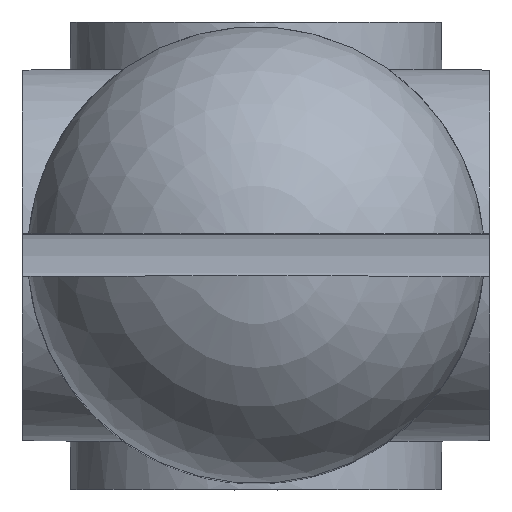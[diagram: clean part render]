
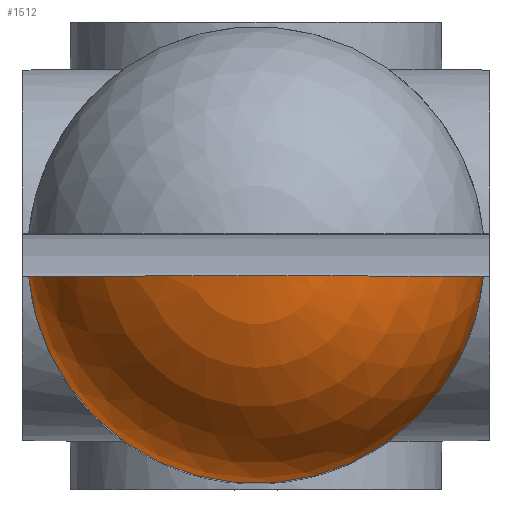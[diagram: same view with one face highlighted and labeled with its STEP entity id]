
A CAD part, top view. The second image highlights one B-rep face of the part: STEP entity #1512.
In plain terms, the highlighted spherical face has radius 10.75 mm.
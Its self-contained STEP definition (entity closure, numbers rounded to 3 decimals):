
#136=CARTESIAN_POINT('',(0.,0.,16.75));
#137=DIRECTION('',(0.,0.,-1.));
#138=DIRECTION('',(0.996,-0.093,0.));
#139=AXIS2_PLACEMENT_3D('',#136,#137,#138);
#567=CARTESIAN_POINT('',(10.703,-1.,16.75));
#568=CARTESIAN_POINT('',(10.703,-1.,17.289));
#569=CARTESIAN_POINT('',(10.622,-1.,18.299));
#570=CARTESIAN_POINT('',(10.342,-1.,19.6));
#571=CARTESIAN_POINT('',(9.963,-1.,20.713));
#572=CARTESIAN_POINT('',(9.526,-1.,21.664));
#573=CARTESIAN_POINT('',(9.059,-1.,22.473));
#574=CARTESIAN_POINT('',(8.582,-1.,23.163));
#575=CARTESIAN_POINT('',(8.106,-1.,23.752));
#576=CARTESIAN_POINT('',(7.639,-1.,24.256));
#577=CARTESIAN_POINT('',(7.197,-1.,24.68));
#578=CARTESIAN_POINT('',(6.784,-1.,25.034));
#579=CARTESIAN_POINT('',(6.391,-1.,25.341));
#580=CARTESIAN_POINT('',(6.005,-1.,25.615));
#581=CARTESIAN_POINT('',(5.608,-1.,25.871));
#582=CARTESIAN_POINT('',(5.196,-1.,26.111));
#583=CARTESIAN_POINT('',(4.775,-1.,26.333));
#584=CARTESIAN_POINT('',(4.345,-1.,26.536));
#585=CARTESIAN_POINT('',(3.909,-1.,26.718));
#586=CARTESIAN_POINT('',(3.462,-1.,26.882));
#587=CARTESIAN_POINT('',(2.998,-1.,27.029));
#588=CARTESIAN_POINT('',(2.559,-1.,27.146));
#589=CARTESIAN_POINT('',(2.181,-1.,27.231));
#590=CARTESIAN_POINT('',(1.851,-1.,27.294));
#591=CARTESIAN_POINT('',(1.564,-1.,27.34));
#592=CARTESIAN_POINT('',(1.306,-1.,27.374));
#593=CARTESIAN_POINT('',(1.065,-1.,27.401));
#594=CARTESIAN_POINT('',(0.827,-1.,27.422));
#595=CARTESIAN_POINT('',(0.582,-1.,27.439));
#596=CARTESIAN_POINT('',(0.337,-1.,27.449));
#597=CARTESIAN_POINT('',(0.092,-1.,27.454));
#598=CARTESIAN_POINT('',(-0.151,-1.,27.453));
#599=CARTESIAN_POINT('',(-0.395,-1.,27.447));
#600=CARTESIAN_POINT('',(-0.641,-1.,27.435));
#601=CARTESIAN_POINT('',(-0.885,-1.,27.418));
#602=CARTESIAN_POINT('',(-1.12,-1.,27.395));
#603=CARTESIAN_POINT('',(-1.361,-1.,27.367));
#604=CARTESIAN_POINT('',(-1.62,-1.,27.331));
#605=CARTESIAN_POINT('',(-1.908,-1.,27.284));
#606=CARTESIAN_POINT('',(-2.235,-1.,27.219));
#607=CARTESIAN_POINT('',(-2.608,-1.,27.133));
#608=CARTESIAN_POINT('',(-3.035,-1.,27.018));
#609=CARTESIAN_POINT('',(-3.481,-1.,26.875));
#610=CARTESIAN_POINT('',(-3.915,-1.,26.715));
#611=CARTESIAN_POINT('',(-4.343,-1.,26.536));
#612=CARTESIAN_POINT('',(-4.774,-1.,26.334));
#613=CARTESIAN_POINT('',(-5.197,-1.,26.111));
#614=CARTESIAN_POINT('',(-5.608,-1.,25.87));
#615=CARTESIAN_POINT('',(-6.004,-1.,25.615));
#616=CARTESIAN_POINT('',(-6.39,-1.,25.341));
#617=CARTESIAN_POINT('',(-6.784,-1.,25.034));
#618=CARTESIAN_POINT('',(-7.197,-1.,24.679));
#619=CARTESIAN_POINT('',(-7.64,-1.,24.256));
#620=CARTESIAN_POINT('',(-8.106,-1.,23.752));
#621=CARTESIAN_POINT('',(-8.582,-1.,23.163));
#622=CARTESIAN_POINT('',(-9.059,-1.,22.473));
#623=CARTESIAN_POINT('',(-9.526,-1.,21.664));
#624=CARTESIAN_POINT('',(-9.963,-1.,20.713));
#625=CARTESIAN_POINT('',(-10.342,-1.,19.6));
#626=CARTESIAN_POINT('',(-10.622,-1.,18.299));
#627=CARTESIAN_POINT('',(-10.703,-1.,17.289));
#628=CARTESIAN_POINT('',(-10.703,-1.,16.75));
#1001=VERTEX_POINT('',#567);
#1002=VERTEX_POINT('',#628);
#1503=CARTESIAN_POINT('',(0.,0.,16.75));
#1504=DIRECTION('',(0.,0.,1.));
#1505=DIRECTION('',(-1.,0.,0.));
#1506=AXIS2_PLACEMENT_3D('',#1503,#1504,#1505);
#1507=SPHERICAL_SURFACE('',#1506,10.75);
#1508=ORIENTED_EDGE('',*,*,#1488,.F.);
#1509=ORIENTED_EDGE('',*,*,#1151,.T.);
#1510=EDGE_LOOP('',(#1508,#1509));
#1511=FACE_OUTER_BOUND('',#1510,.F.);
#1512=ADVANCED_FACE('',(#1511),#1507,.T.);
#140=CIRCLE('',#139,10.75);
#629=B_SPLINE_CURVE_WITH_KNOTS('',3,(#567,#568,#569,#570,#571,#572,#573,#574,
#575,#576,#577,#578,#579,#580,#581,#582,#583,#584,#585,#586,#587,#588,#589,#590,
#591,#592,#593,#594,#595,#596,#597,#598,#599,#600,#601,#602,#603,#604,#605,#606,
#607,#608,#609,#610,#611,#612,#613,#614,#615,#616,#617,#618,#619,#620,#621,#622,
#623,#624,#625,#626,#627,#628),.UNSPECIFIED.,.F.,.F.,(4,1,1,1,1,1,1,1,1,1,1,1,1,
1,1,1,1,1,1,1,1,1,1,1,1,1,1,1,1,1,1,1,1,1,1,1,1,1,1,1,1,1,1,1,1,1,1,1,1,1,1,1,1,
1,1,1,1,1,1,4),(0.,0.017,0.034,0.051,
0.068,0.085,0.102,0.119,
0.136,0.153,0.169,0.186,
0.203,0.22,0.237,0.254,
0.271,0.288,0.305,0.322,
0.339,0.356,0.373,0.39,
0.407,0.424,0.441,0.458,
0.475,0.492,0.508,0.525,
0.542,0.559,0.576,0.593,
0.61,0.627,0.644,0.661,
0.678,0.695,0.712,0.729,
0.746,0.763,0.78,0.797,
0.814,0.831,0.847,0.864,
0.881,0.898,0.915,0.932,
0.949,0.966,0.983,1.),.UNSPECIFIED.);
#1151=EDGE_CURVE('',#1001,#1002,#140,.T.);
#1488=EDGE_CURVE('',#1001,#1002,#629,.T.);
